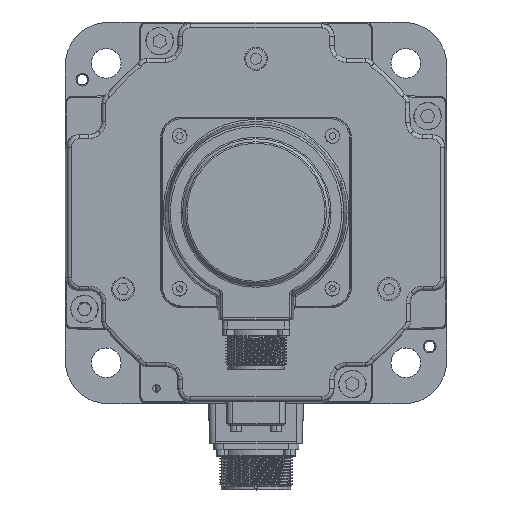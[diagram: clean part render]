
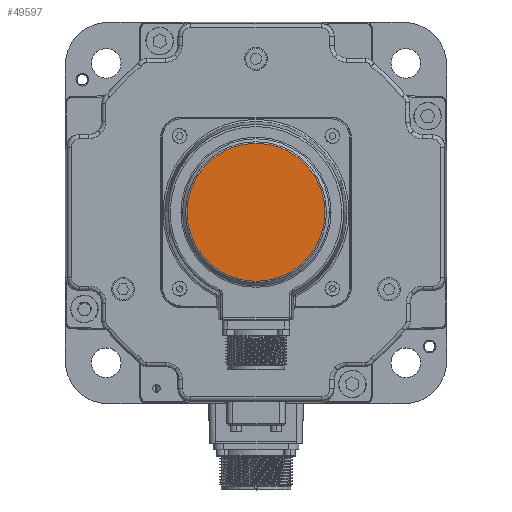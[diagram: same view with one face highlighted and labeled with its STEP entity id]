
A CAD part, top view. The second image highlights one B-rep face of the part: STEP entity #49597.
In plain terms, the highlighted planar face has unit normal (0, 0, 1).
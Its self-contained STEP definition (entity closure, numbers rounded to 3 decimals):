
#689 = DIRECTION ( 'NONE',  ( 0., 0., 1. ) ) ;
#5585 = EDGE_LOOP ( 'NONE', ( #24442, #74582 ) ) ;
#12558 = CARTESIAN_POINT ( 'NONE',  ( -32.586, 0., 90.7 ) ) ;
#17255 = VERTEX_POINT ( 'NONE', #12558 ) ;
#17383 = AXIS2_PLACEMENT_3D ( 'NONE', #22177, #38719, #44897 ) ;
#19217 = CARTESIAN_POINT ( 'NONE',  ( 32.586, 0., 90.7 ) ) ;
#20544 = CIRCLE ( 'NONE', #75903, 32.586 ) ;
#22053 = VERTEX_POINT ( 'NONE', #19217 ) ;
#22177 = CARTESIAN_POINT ( 'NONE',  ( 0., 0., 90.7 ) ) ;
#23794 = DIRECTION ( 'NONE',  ( -1., 0., 0. ) ) ;
#24442 = ORIENTED_EDGE ( 'NONE', *, *, #32244, .T. ) ;
#27769 = AXIS2_PLACEMENT_3D ( 'NONE', #63862, #689, #23794 ) ;
#32244 = EDGE_CURVE ( 'NONE', #17255, #22053, #50565, .T. ) ;
#38719 = DIRECTION ( 'NONE',  ( 0., 0., 1. ) ) ;
#40741 = FACE_OUTER_BOUND ( 'NONE', #5585, .T. ) ;
#44897 = DIRECTION ( 'NONE',  ( -1., 0., 0. ) ) ;
#49597 = ADVANCED_FACE ( 'NONE', ( #40741 ), #59604, .T. ) ;
#50565 = CIRCLE ( 'NONE', #17383, 32.586 ) ;
#55775 = DIRECTION ( 'NONE',  ( -1., 0., 0. ) ) ;
#59604 = PLANE ( 'NONE',  #27769 ) ;
#60775 = DIRECTION ( 'NONE',  ( 0., 0., 1. ) ) ;
#63862 = CARTESIAN_POINT ( 'NONE',  ( 0., 0., 90.7 ) ) ;
#64600 = EDGE_CURVE ( 'NONE', #22053, #17255, #20544, .T. ) ;
#66917 = CARTESIAN_POINT ( 'NONE',  ( 0., 0., 90.7 ) ) ;
#74582 = ORIENTED_EDGE ( 'NONE', *, *, #64600, .T. ) ;
#75903 = AXIS2_PLACEMENT_3D ( 'NONE', #66917, #60775, #55775 ) ;
